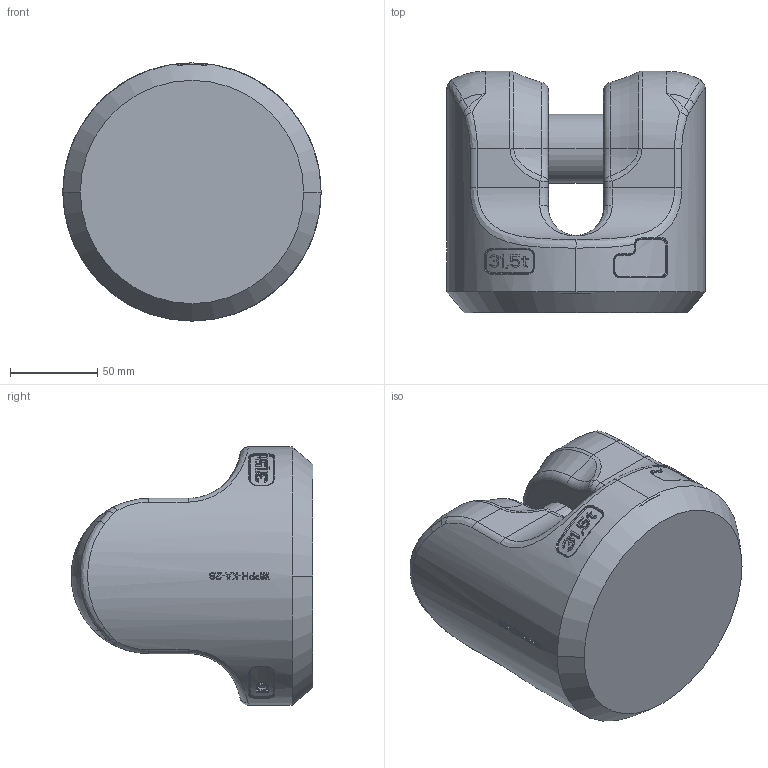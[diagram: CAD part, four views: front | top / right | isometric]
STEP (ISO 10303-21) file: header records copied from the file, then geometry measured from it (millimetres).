
FILE_DESCRIPTION((''),'2;1');
FILE_NAME('001-M34294-P-40','2019-02-27T',('anja.joas'),(''),'PRO/ENGINEER BY PARAMETRIC TECHNOLOGY CORPORATION, 2011490','PRO/ENGINEER BY PARAMETRIC TECHNOLOGY CORPORATION, 2011490','');
FILE_SCHEMA(('CONFIG_CONTROL_DESIGN'));
Length unit declared in the file: millimetre
Products named in the file (1): 001-M34294-P-40
Bounding box: 148 x 138.5 x 148 mm (x, y, z)
Volume: 1582346.5 mm3; surface area: 91818.9 mm2
Topology: 1 solids, 1 shells, 696 faces, 1863 edges, 1200 vertices
Faces by surface type: plane 498, bspline 83, cylinder 72, torus 33, cone 6, sphere 4
Entity records: 26991 total; most frequent: CARTESIAN_POINT 10952, ORIENTED_EDGE 3726, DIRECTION 2757, EDGE_CURVE 1863, VERTEX_POINT 1200, AXIS2_PLACEMENT_3D 940, VECTOR 877, LINE 877
